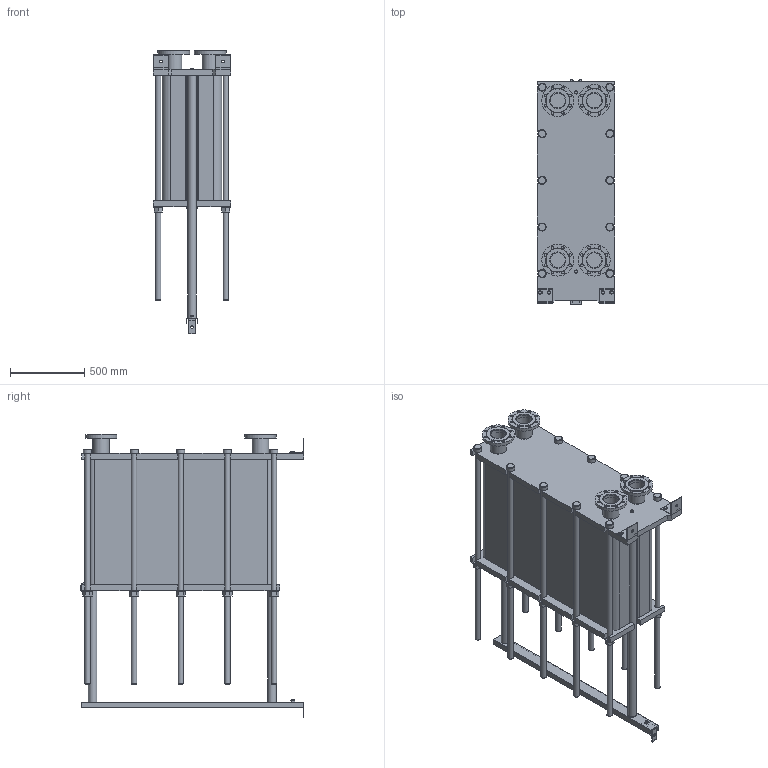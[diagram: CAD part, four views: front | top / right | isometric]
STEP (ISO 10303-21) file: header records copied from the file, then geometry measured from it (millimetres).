
FILE_DESCRIPTION(/* description */ (''),/* implementation_level */ '2;1');
FILE_NAME(/* name */ 'C:\Users\zhuro\Desktop\ENCO\TO\ЭН-04\ЭН-0,5-04-245-1.stp',/* time_stamp */ '2022-06-06T11:06:30+03:00',/* author */ ('zhuro'),/* organization */ (''),/* preprocessor_version */ 'ST-DEVELOPER v18.1',/* originating_system */ 'Autodesk Inventor 2022',/* authorisation */ '');
FILE_SCHEMA (('AUTOMOTIVE_DESIGN { 1 0 10303 214 3 1 1 }'));
Length unit declared in the file: millimetre
Products named in the file (1): ЭН-0,5-04-245-1
Bounding box: 520 x 1510 x 1912.5 mm (x, y, z)
Volume: 501430246.4 mm3; surface area: 11543825.7 mm2
Topology: 45 solids, 45 shells, 668 faces, 1611 edges, 1048 vertices
Faces by surface type: plane 457, cylinder 166, cone 39, torus 6
Full cylindrical faces by diameter (mm): 8 x4, 10 x2, 16 x8, 18 x35, 36 x25, 40 x2, 42 x1, 45 x4, 54 x10, 57 x2, 60 x10, 68 x2, 100 x4, 110 x8, 215 x4
Entity records: 23607 total; most frequent: CARTESIAN_POINT 7348, DIRECTION 3371, ORIENTED_EDGE 3142, EDGE_CURVE 1571, AXIS2_PLACEMENT_3D 1199, VERTEX_POINT 1044, LINE 973, VECTOR 973
